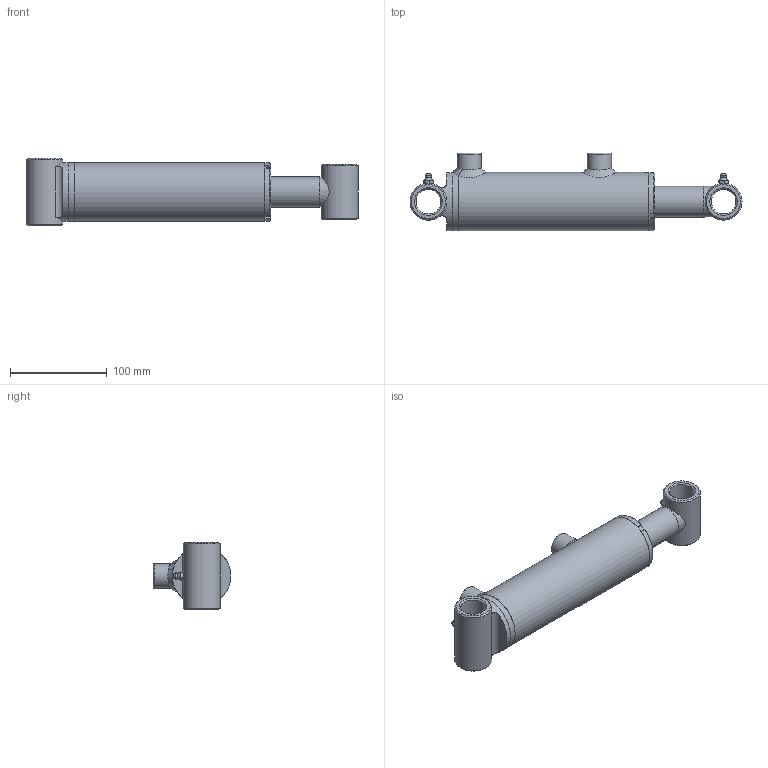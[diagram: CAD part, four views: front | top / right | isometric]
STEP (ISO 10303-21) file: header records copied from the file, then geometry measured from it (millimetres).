
FILE_DESCRIPTION(/* description */ (''),/* implementation_level */ '2;1');
FILE_NAME(/* name */ 'C:\01 - Philip\00 - Philip Rivard\01 - Contracts\Eagle Hydraulic Components\00 - 3D Cylinder\01 - Standard\HBU\HBU20XX\STEP\HBU2004.stp',/* time_stamp */ '2015-05-19T19:54:55-04:00',/* author */ ('Philip'),/* organization */ (''),/* preprocessor_version */ 'ST-DEVELOPER v16.1',/* originating_system */ 'Autodesk Inventor 2016',/* authorisation */ '');
FILE_SCHEMA (('AUTOMOTIVE_DESIGN { 1 0 10303 214 3 1 1 }'));
Length unit declared in the file: inch
Products named in the file (12): Tube_Welding_Welds; ECP-20-HBU; Tube; Straight_Port; Gland; Grease Fitting 1-8; Tube_Welding; Rod_Welding_Welds; Rod; Bushing; Rod_Welding; Cylinder_Assembly
Assembly tree (13 placements, depth 3):
  Cylinder_Assembly
    Tube_Welding
      Tube_Welding_Welds
      ECP-20-HBU
      Tube
      Straight_Port  x2
      Gland
      Grease Fitting 1-8
    Rod_Welding
      Rod_Welding_Welds
      Rod
      Bushing
      Grease Fitting 1-8
Bounding box: 342.9 x 80.33 x 69.8 mm (x, y, z)
Volume: 527543.1 mm3; surface area: 161249.6 mm2
Topology: 12 solids, 12 shells, 197 faces, 428 edges, 259 vertices
Faces by surface type: cone 65, plane 55, cylinder 50, torus 15, bspline 10, sphere 2
Full cylindrical faces by diameter (mm): 4 x2, 5 x1, 7.5 x2, 8 x2, 10 x2, 12.751 x2, 22 x1, 25 x4, 25.4 x2, 25.65 x2, 26 x1, 26.25 x1, 31.75 x2, 38.1 x2, 43 x1, 44.45 x1, 50.546 x1, 50.75 x1, 50.8 x1, 51 x1, 55 x4, 60.3 x1, 60.325 x1
Entity records: 6008 total; most frequent: CARTESIAN_POINT 2818, DIRECTION 631, ORIENTED_EDGE 486, AXIS2_PLACEMENT_3D 293, EDGE_LOOP 270, EDGE_CURVE 243, VERTEX_POINT 191, ADVANCED_FACE 157
